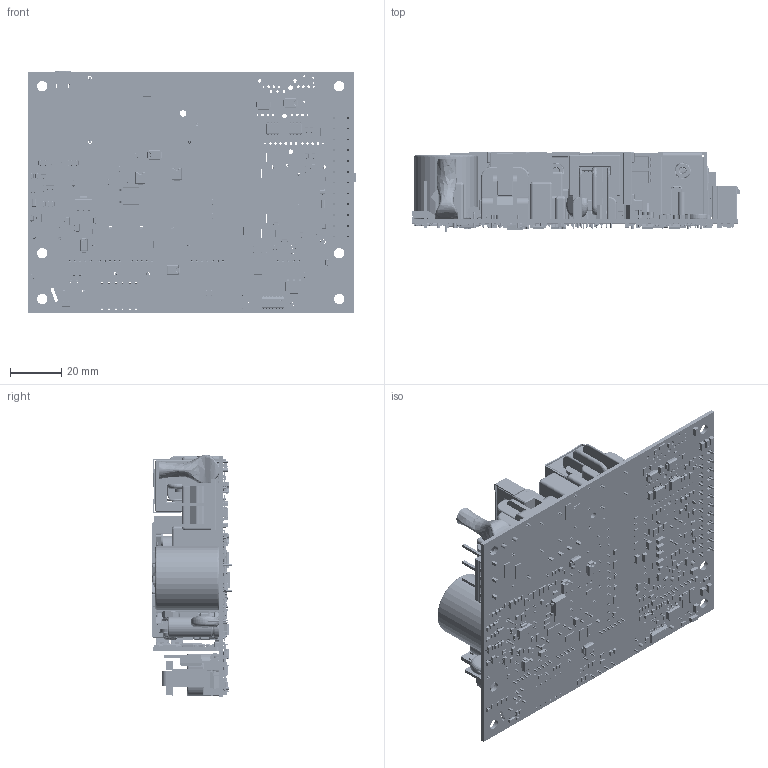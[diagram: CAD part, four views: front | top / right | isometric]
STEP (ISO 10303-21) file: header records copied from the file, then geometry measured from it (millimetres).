
FILE_DESCRIPTION (( 'STEP AP214' ), '1' );
FILE_NAME ('NV1-1G000-N3.STEP', '2011-10-21T07:48:59', ( '' ), ( '' ), 'SwSTEP 2.0', 'SolidWorks 2011', '' );
FILE_SCHEMA (( 'AUTOMOTIVE_DESIGN' ));
Length unit declared in the file: millimetre
Products named in the file (89): nv175 flyback transformer; EF-20 BOBBIN NV175; E20core 0.16gap; CAP X26Y18.5Z9L0.8P22.5; 60652M; 33311; 33311t heat shrink; 33311T; CAP D25 L25 P10_Simplify; 60546; SOT223; DO201 P17; CAP D8 L11.5 P3.5; 21105; 13952_1; POT3224J; 60368M; 60367M; 13952; SO-16_Standard; 60366M; 4-SMD; 17085; 21263; CAPLP10X12Y7; CAP D10 L12.5 P5; 84238; 60758; 25323; Thermister; 52180_1; 52180; 28431; 25336; Part1^84238; 60548; SOT323; SO-8; 26-60-4050; SO-14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
Assembly tree (555 placements, depth 4):
  NV1-1G000-N3
    R2512_Domyslna  x8
    C0805  x19
    R0805  x33
    R1206  x21
    13952_1
      SOD323  x24
      R0603  x73
      C0603  x11
      R0805  x24
      C0805  x36
      POT3224J
      60367M  x4
      SOT23  x8
      SO-8  x3
      SOT323  x9
      13952
      4-SMD  x2
      60366M
      SO-14
      SO-16_Standard
      60368M
    R0603  x51
    SOD323  x34
    84238
      23056_M 3  x3
      25336  x3
      Part1^84238
      M3 Crinkle Washer  x5
      Flash Test Dot
      Thermister
      28431  x3
      52180_1
        52153  x2
        52180
      TO220 Staggered  x3
      25323
      60758
      77017
    SOT23  x14
    1999M  x6
    33417  x2
      UF16A
      uu16 4 pins
      UU16 CLIP
    NV175 output htsink
      Flash Test Dot
      TO220 Staggered  x2
      32110  x2
      18007  x2
      Screw M3x8 Torx
      M3 Crinkle Washer  x2
      52158_1
        52158
        52153  x2
      77017
      23056_M 3
    20184  x2
    C1206  x20
    SOT-23-5
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Bounding box: 128 x 31.3 x 94.51 mm (x, y, z)
Volume: 96788 mm3; surface area: 115608 mm2
Topology: 574 solids, 606 shells, 20134 faces, 49589 edges, 31461 vertices
Faces by surface type: plane 13857, cylinder 4979, bspline 1124, cone 174
Entity records: 275645 total; most frequent: CARTESIAN_POINT 67243, ORIENTED_EDGE 29088, DIRECTION 29020, EDGE_CURVE 14592, LINE 10286, VECTOR 10286, AXIS2_PLACEMENT_3D 9367, VERTEX_POINT 9325
